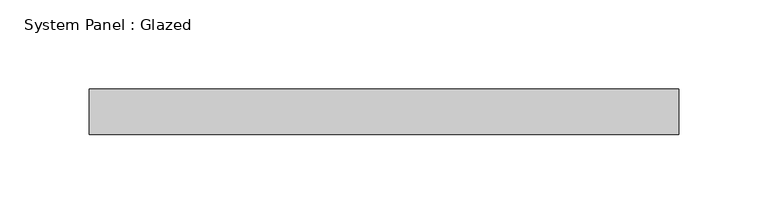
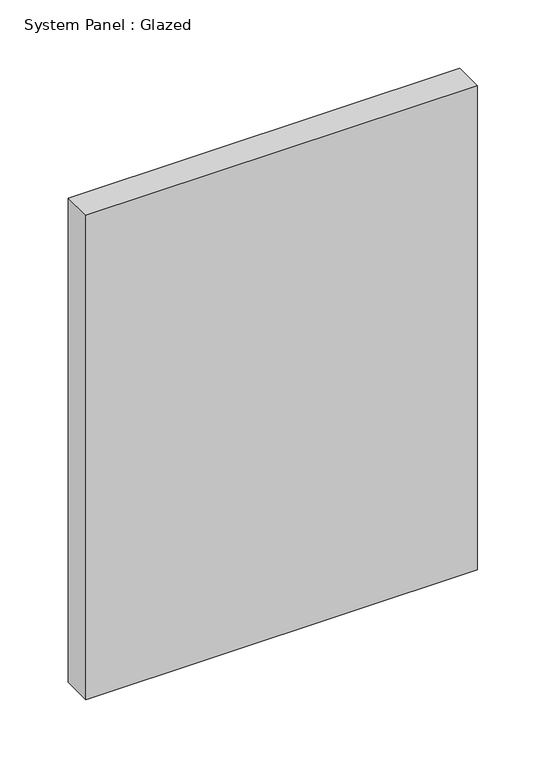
"""IFC4 building model written with IfcOpenShell, lengths in millimetres: plate geometry, System Panel : Glazed."""

from ifc_helpers import new_model, si_unit, origin, origin_with_axes, place, context, project, spatial, polyline, outline, extrude, source, transform, mapped, element, save


def system_panel_glazed_ded7d5c6(model_context):
    return source(origin(), model_context, "Body", "SweptSolid", [
        extrude(outline(polyline([(165.0363594, 19.05), (-165.0363594, 19.05), (-165.0363594, 44.45), (165.0363594, 44.45), (165.0363594, 19.05)])), origin_with_axes(), (0.0, 0.0, 1.0), 431.8),
    ])


if __name__ == "__main__":
    model = new_model("IFC4")
    model_context = context("Model", 3, world=origin())
    ifc_project = project(units=[si_unit("LENGTHUNIT", "METRE", prefix="MILLI")], contexts=[model_context])
    site = spatial("IfcSite", under=ifc_project)
    building = spatial("IfcBuilding", under=site)
    placement = place(None, origin())
    system_panel_glazed_shape = system_panel_glazed_ded7d5c6(model_context)
    element("IfcPlate", 1, ObjectType="System Panel : Glazed", at=placement, inside=building, context=model_context, shape_type="MappedRepresentation", body=[
        mapped(system_panel_glazed_shape, transform((0.0, 0.0, 0.0), x_axis=(1.0, 0.0, 0.0), y_axis=(0.0, 1.0, 0.0), z_axis=(0.0, 0.0, 1.0))),
    ])
    save(model, "model.ifc")
